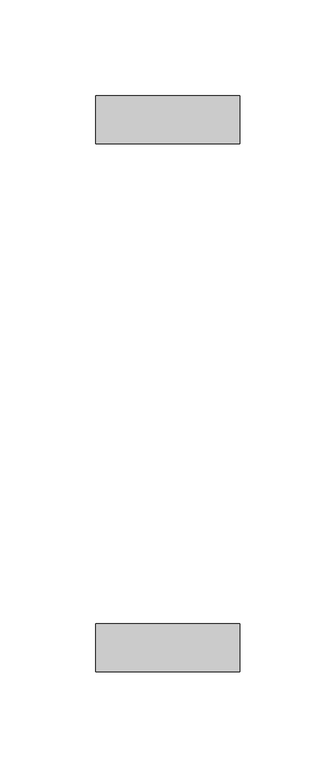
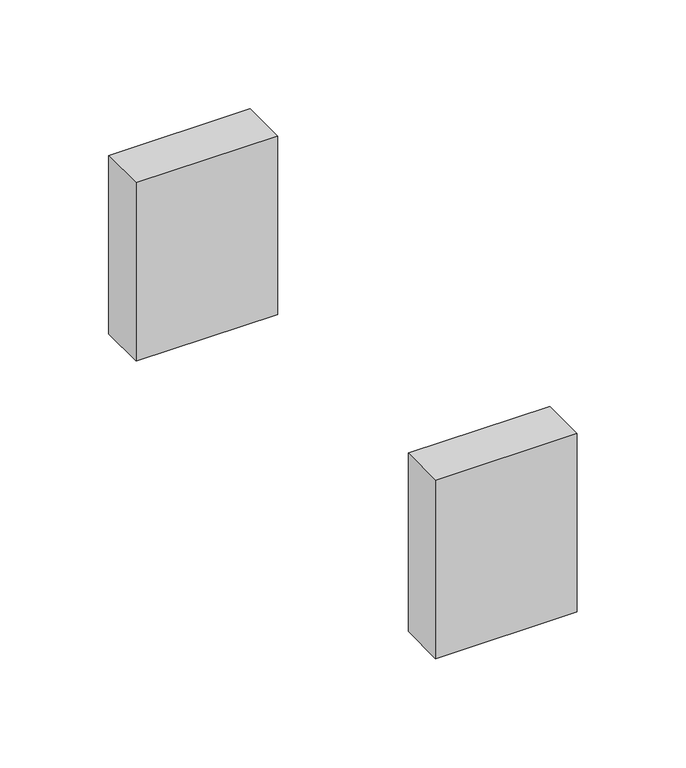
"""IFC4 building model written with IfcOpenShell, lengths in millimetres: cable carrier fitting geometry, 61_CTF_kabelgoot_open_verbinding : verbindingsstuk, standaard."""

from ifc_helpers import new_model, si_unit, frame, origin, place, context, project, spatial, polyline, outline, extrude, source, transform, mapped, element, save


def cable_carrier_fitting_0a3ec64d(model_context):
    return source(origin(), model_context, "Body", "SweptSolid", [
        extrude(outline(polyline([(0.0, -150.0), (0.0, -125.0), (75.0, -125.0), (75.0, -150.0), (0.0, -150.0)])), frame((0.0, 0.0, -50.0), z_axis=(0.0, 0.0, 1.0), x_axis=(1.0, 0.0, 0.0)), (0.0, 0.0, 1.0), 100.0),
        extrude(outline(polyline([(0.0, 125.0), (0.0, 150.0), (75.0, 150.0), (75.0, 125.0), (0.0, 125.0)])), frame((0.0, 0.0, -50.0), z_axis=(0.0, 0.0, 1.0), x_axis=(1.0, 0.0, 0.0)), (0.0, 0.0, 1.0), 100.0),
    ])


if __name__ == "__main__":
    model = new_model("IFC4")
    model_context = context("Model", 3, world=origin())
    ifc_project = project(units=[si_unit("LENGTHUNIT", "METRE", prefix="MILLI")], contexts=[model_context])
    site = spatial("IfcSite", under=ifc_project)
    building = spatial("IfcBuilding", under=site)
    placement = place(None, origin())
    cable_carrier_fitting_shape = cable_carrier_fitting_0a3ec64d(model_context)
    element("IfcCableCarrierFitting", 1, ObjectType="61_CTF_kabelgoot_open_verbinding : verbindingsstuk, standaard", at=placement, inside=building, context=model_context, shape_type="MappedRepresentation", body=[
        mapped(cable_carrier_fitting_shape, transform((0.0, 0.0, 0.0), x_axis=(1.0, 0.0, 0.0), y_axis=(0.0, 1.0, 0.0), z_axis=(0.0, 0.0, 1.0))),
    ])
    save(model, "model.ifc")
